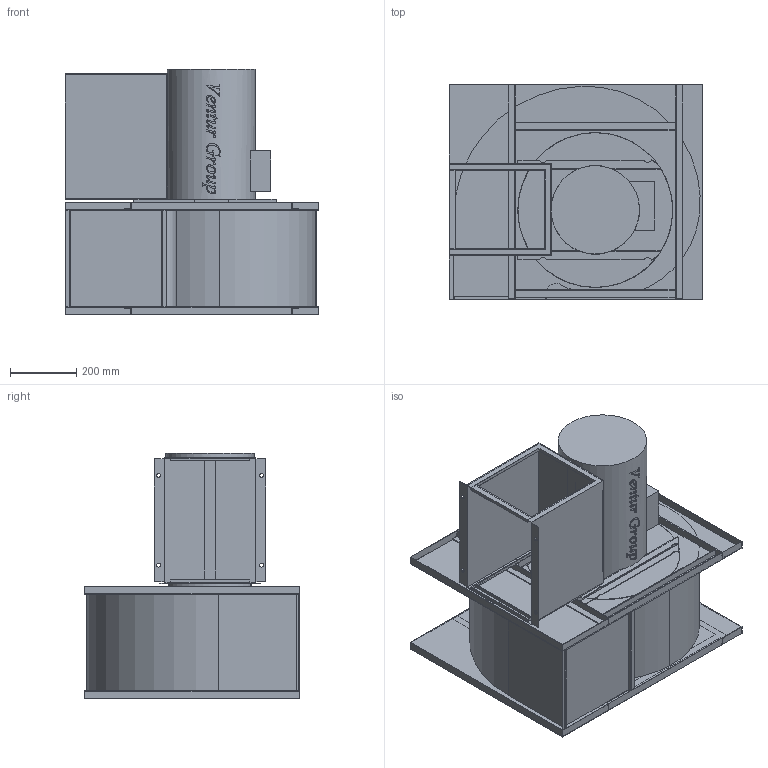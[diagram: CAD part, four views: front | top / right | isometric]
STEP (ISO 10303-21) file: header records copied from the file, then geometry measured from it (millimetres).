
FILE_DESCRIPTION(/* description */ (''),/* implementation_level */ '2;1');
FILE_NAME(/* name */ 'E:\Mariusz\Modele uproszczone\LFB\LFB_4_400_183 435011080\LFB_X_400_183 435011080\LFB_X_400_183 435011080.stp',/* time_stamp */ '2018-07-11T09:38:56+02:00',/* author */ ('M.Janczarek'),/* organization */ (''),/* preprocessor_version */ 'ST-DEVELOPER v16.5',/* originating_system */ 'Autodesk Inventor 2017',/* authorisation */ '');
FILE_SCHEMA (('AUTOMOTIVE_DESIGN { 1 0 10303 214 3 1 1 }'));
Products named in the file (1): LFB_4_400_183 435011080
Bounding box: 764 x 649 x 738.5 mm (x, y, z)
Volume: 134205518.8 mm3; surface area: 3825532.3 mm2
Topology: 1 solids, 1 shells, 5275 faces, 15732 edges, 10406 vertices
Faces by surface type: plane 4778, bspline 419, cylinder 76, torus 2
Full cylindrical faces by diameter (mm): 9 x8, 9.2 x8, 12 x4, 266 x1, 325 x1, 464 x1, 465 x1, 466 x1
Entity records: 190204 total; most frequent: CARTESIAN_POINT 41705, ORIENTED_EDGE 31404, DIRECTION 25137, EDGE_CURVE 15702, LINE 14529, VECTOR 14529, VERTEX_POINT 10403, EDGE_LOOP 7473
